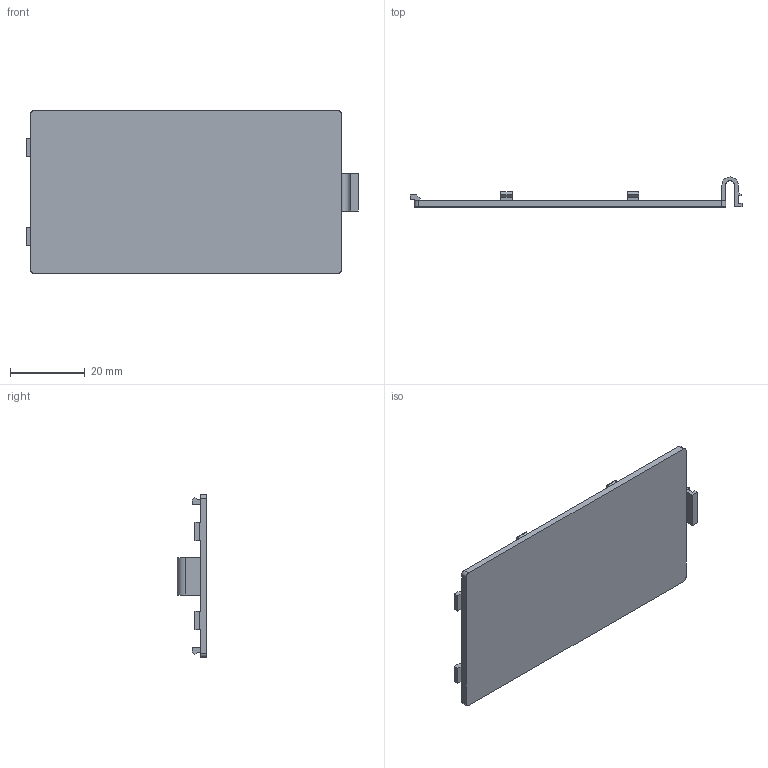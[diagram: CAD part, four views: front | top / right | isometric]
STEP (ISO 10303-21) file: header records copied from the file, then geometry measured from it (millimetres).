
FILE_DESCRIPTION (( 'STEP AP203' ), '1' );
FILE_NAME ('F-狟褲裔(謗跺).STEP', '2023-07-04T14:45:22', ( 'shan123' ), ( 'Razer' ), 'SwSTEP 2.0', 'SolidWorks 2018', '' );
FILE_SCHEMA (( 'CONFIG_CONTROL_DESIGN' ));
Length unit declared in the file: millimetre
Products named in the file (1): F-狟褲裔(謗跺)
Bounding box: 89.1 x 8.01 x 43.6 mm (x, y, z)
Volume: 6428.3 mm3; surface area: 8227.6 mm2
Topology: 1 solids, 1 shells, 70 faces, 192 edges, 128 vertices
Faces by surface type: plane 64, cylinder 6
Entity records: 2265 total; most frequent: CARTESIAN_POINT 391, ORIENTED_EDGE 384, DIRECTION 346, EDGE_CURVE 192, VECTOR 180, LINE 180, VERTEX_POINT 128, AXIS2_PLACEMENT_3D 83
